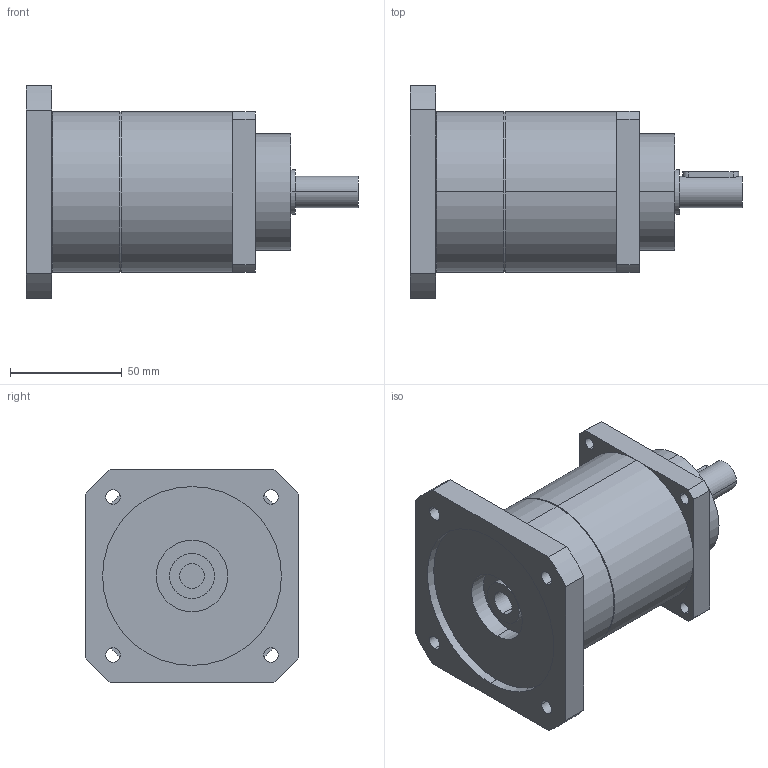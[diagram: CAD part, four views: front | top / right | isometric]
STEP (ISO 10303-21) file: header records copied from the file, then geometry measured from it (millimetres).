
FILE_DESCRIPTION(('CoCreate Modeling STEP Export'),'2;1');
FILE_NAME('GPT75_ig-9-12-16-20-25-28-35-40-50-70-100_14_B5T_11_P07.stp','2014-08-27T13:34:17',(''),(''),'CoCreate Modeling STEP processor for AP214 (Solid Model)','CoCreate Modeling 16.00C 25-Feb-2009 (C) Parametric Technology GmbH','');
FILE_SCHEMA(('AUTOMOTIVE_DESIGN { 1 0 10303 214 1 1 1 1 }'));
Length unit declared in the file: millimetre
Products named in the file (2): GPT75_ig-9-12-16-20-25-28-35-40-50-70-100_14_B5T_11_P07
Assembly tree (1 placements, depth 2):
  GPT75_ig-9-12-16-20-25-28-35-40-50-70-100_14_B5T_11_P07
    GPT75_ig-9-12-16-20-25-28-35-40-50-70-100_14_B5T_11_P07
Bounding box: 148.5 x 95 x 95 mm (x, y, z)
Volume: 491036.7 mm3; surface area: 53863.7 mm2
Topology: 1 solids, 1 shells, 77 faces, 190 edges, 125 vertices
Faces by surface type: cylinder 46, plane 27, cone 4
Entity records: 2464 total; most frequent: CARTESIAN_POINT 715, ORIENTED_EDGE 380, DIRECTION 320, EDGE_CURVE 190, VERTEX_POINT 125, AXIS2_PLACEMENT_3D 118, EDGE_LOOP 103, VECTOR 84
